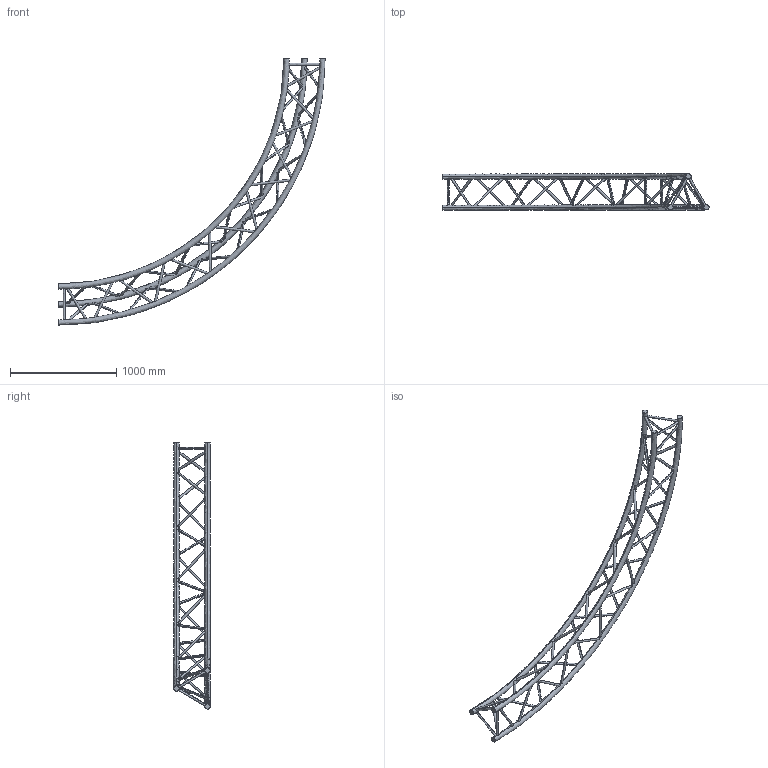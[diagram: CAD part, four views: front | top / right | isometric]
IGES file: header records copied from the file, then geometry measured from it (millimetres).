
Start section: SolidWorks IGES file using analytic representation for surfaces
Global section: file name: K:\BIBLIO\asd_biblio\SX390\Cercles\SXC39PH\SXC39500PH\SXC39500PH.IGS; native system: SolidWorks 2009; preprocessor: SolidWorks 2009; author: des3; date: 091021.132704; units: millimetre
Bounding box: 2500 x 341.85 x 2500 mm (x, y, z)
Surface area: 2681823.3 mm2 (no closed solid volume)
Topology: 0 solids, 0 shells, 102 faces, 7526 edges, 7526 vertices
Faces by surface type: revolution 90, bspline 12
